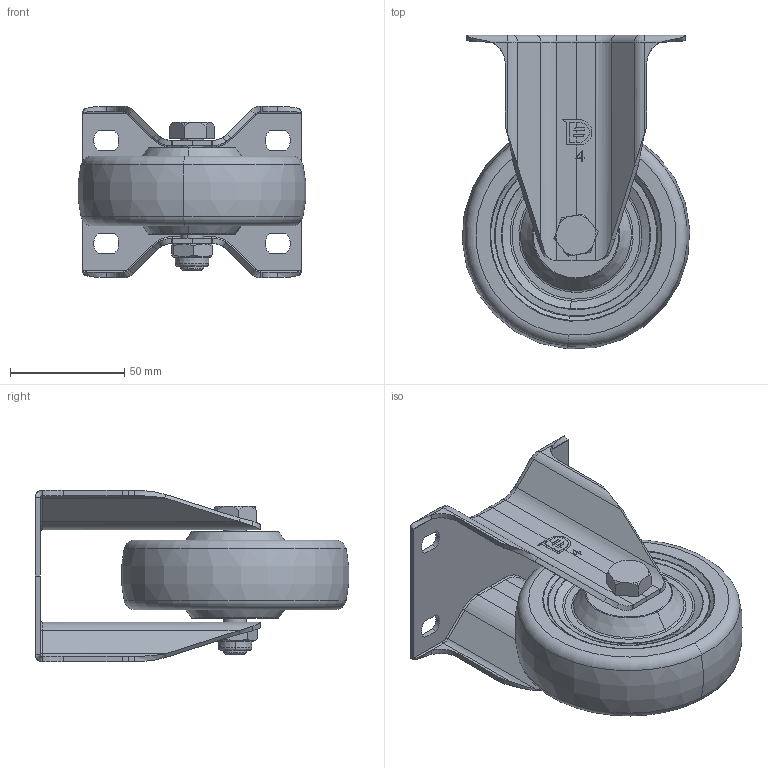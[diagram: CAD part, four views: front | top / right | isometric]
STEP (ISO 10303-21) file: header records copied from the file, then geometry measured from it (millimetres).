
FILE_DESCRIPTION (( 'STEP AP203' ), '1' );
FILE_NAME ('11110400061053.STEP', '2025-05-13T06:01:45', ( 'scd' ), ( '' ), 'SwSTEP 2.0', 'SolidWorks 2024', '' );
FILE_SCHEMA (( 'CONFIG_CONTROL_DESIGN' ));
Length unit declared in the file: millimetre
Products named in the file (6): 4寸5寸车心; 4固定活动脚; ___UM10; 11110400061053; 11110400062043; 414_________1
Assembly tree (5 placements, depth 3):
  11110400061053
    4固定活动脚
    11110400062043
      414_________1
      4寸5寸车心
      ___UM10
Bounding box: 99.62 x 137.23 x 75 mm (x, y, z)
Volume: 270199.6 mm3; surface area: 65311.1 mm2
Topology: 4 solids, 4 shells, 292 faces, 699 edges, 421 vertices
Faces by surface type: plane 115, cylinder 74, torus 46, cone 35, bspline 22
Entity records: 10278 total; most frequent: CARTESIAN_POINT 2998, DIRECTION 1403, ORIENTED_EDGE 1398, EDGE_CURVE 699, AXIS2_PLACEMENT_3D 522, VERTEX_POINT 421, VECTOR 359, LINE 359
